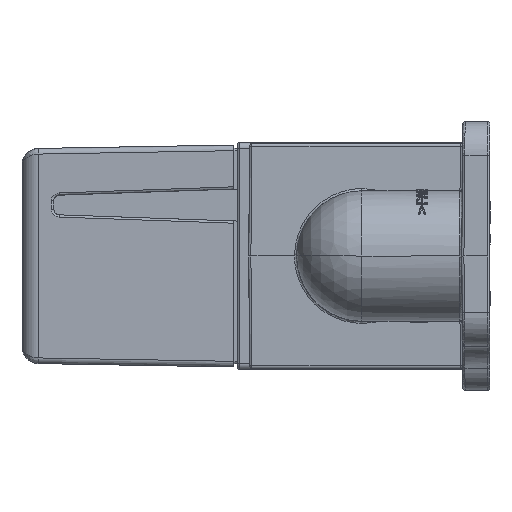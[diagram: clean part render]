
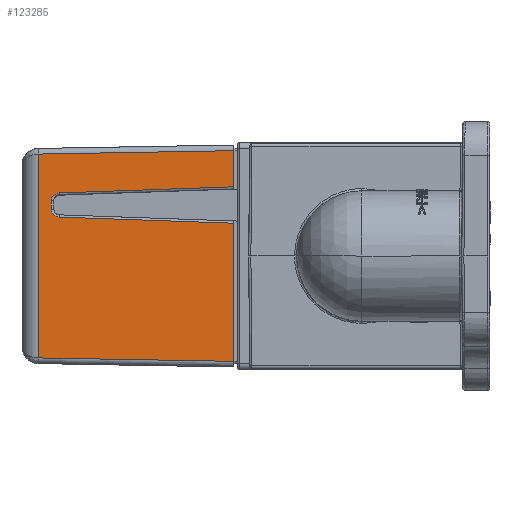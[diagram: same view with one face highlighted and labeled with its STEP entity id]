
A CAD part, left-side view. The second image highlights one B-rep face of the part: STEP entity #123285.
In plain terms, the highlighted planar face has unit normal (-1, 0.018, 0).
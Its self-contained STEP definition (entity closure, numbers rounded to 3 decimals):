
#2900 = VECTOR ( 'NONE', #12757, 1000. ) ;
#5204 = EDGE_CURVE ( 'NONE', #57630, #69656, #29531, .T. ) ;
#5913 = EDGE_CURVE ( 'NONE', #23092, #9469, #22749, .T. ) ;
#9469 = VERTEX_POINT ( 'NONE', #10499 ) ;
#9934 = EDGE_CURVE ( 'NONE', #69656, #26463, #38743, .T. ) ;
#10499 = CARTESIAN_POINT ( 'NONE',  ( -28.945, 11.3, 6.105 ) ) ;
#10926 = ORIENTED_EDGE ( 'NONE', *, *, #73440, .T. ) ;
#11131 = DIRECTION ( 'NONE',  ( -0.017, -1., -0.017 ) ) ;
#12757 = DIRECTION ( 'NONE',  ( 0.017, 1., -0.017 ) ) ;
#13416 = DIRECTION ( 'NONE',  ( -0.017, -1., 0. ) ) ;
#13920 = CARTESIAN_POINT ( 'NONE',  ( -28.644, 28.526, 8.994 ) ) ;
#14387 = DIRECTION ( 'NONE',  ( 0., 0., -1. ) ) ;
#15312 =( BOUNDED_CURVE ( )  B_SPLINE_CURVE ( 3, ( #115528, #78158, #40130, #57915 ),
 .UNSPECIFIED., .F., .F. ) 
 B_SPLINE_CURVE_WITH_KNOTS ( ( 4, 4 ),
 ( 0., 1.536 ),
 .UNSPECIFIED. ) 
 CURVE ( )  GEOMETRIC_REPRESENTATION_ITEM ( )  RATIONAL_B_SPLINE_CURVE ( ( 1., 0.813, 0.813, 1. ) ) 
 REPRESENTATION_ITEM ( '' )  );
#15568 = CARTESIAN_POINT ( 'NONE',  ( -28.945, 11.3, 2.895 ) ) ;
#16851 = LINE ( 'NONE', #82223, #84382 ) ;
#16852 = DIRECTION ( 'NONE',  ( -0.017, -0.999, 0.035 ) ) ;
#18541 = ORIENTED_EDGE ( 'NONE', *, *, #20839, .F. ) ;
#18619 = EDGE_CURVE ( 'NONE', #26463, #97207, #15312, .T. ) ;
#19363 = VERTEX_POINT ( 'NONE', #30581 ) ;
#19917 = ORIENTED_EDGE ( 'NONE', *, *, #82877, .T. ) ;
#20839 = EDGE_CURVE ( 'NONE', #112100, #19363, #16851, .T. ) ;
#21813 = ORIENTED_EDGE ( 'NONE', *, *, #9934, .T. ) ;
#21859 = CARTESIAN_POINT ( 'NONE',  ( -28.669, 27.126, 3.447 ) ) ;
#22749 = LINE ( 'NONE', #24018, #124797 ) ;
#23092 = VERTEX_POINT ( 'NONE', #87893 ) ;
#24018 = CARTESIAN_POINT ( 'NONE',  ( -28.945, 11.3, -9.8 ) ) ;
#26463 = VERTEX_POINT ( 'NONE', #62722 ) ;
#29531 =( BOUNDED_CURVE ( )  B_SPLINE_CURVE ( 3, ( #70700, #21859, #50419, #41570 ),
 .UNSPECIFIED., .F., .F. ) 
 B_SPLINE_CURVE_WITH_KNOTS ( ( 4, 4 ),
 ( 4.747, 6.283 ),
 .UNSPECIFIED. ) 
 CURVE ( )  GEOMETRIC_REPRESENTATION_ITEM ( )  RATIONAL_B_SPLINE_CURVE ( ( 1., 0.813, 0.813, 1. ) ) 
 REPRESENTATION_ITEM ( '' )  );
#30581 = CARTESIAN_POINT ( 'NONE',  ( -28.945, 11.3, -9.295 ) ) ;
#33720 = CARTESIAN_POINT ( 'NONE',  ( -28.944, 11.333, 9.294 ) ) ;
#33750 = FACE_OUTER_BOUND ( 'NONE', #79960, .T. ) ;
#34979 = ORIENTED_EDGE ( 'NONE', *, *, #57140, .T. ) ;
#38743 = LINE ( 'NONE', #88102, #44688 ) ;
#40130 = CARTESIAN_POINT ( 'NONE',  ( -28.669, 27.126, 5.553 ) ) ;
#40614 = DIRECTION ( 'NONE',  ( 0., 0., 1. ) ) ;
#40974 = LINE ( 'NONE', #49839, #55221 ) ;
#41570 = CARTESIAN_POINT ( 'NONE',  ( -28.664, 27.403, 4.133 ) ) ;
#44219 = CARTESIAN_POINT ( 'NONE',  ( -28.94, 11.555, 6.097 ) ) ;
#44688 = VECTOR ( 'NONE', #40614, 1000. ) ;
#49749 = VECTOR ( 'NONE', #125133, 1000. ) ;
#49839 = CARTESIAN_POINT ( 'NONE',  ( -28.95, 10.991, -9.3 ) ) ;
#50419 = CARTESIAN_POINT ( 'NONE',  ( -28.664, 27.403, 3.734 ) ) ;
#53732 = ORIENTED_EDGE ( 'NONE', *, *, #5204, .T. ) ;
#54596 = CARTESIAN_POINT ( 'NONE',  ( -28.95, 11., -9.8 ) ) ;
#55221 = VECTOR ( 'NONE', #11131, 1000. ) ;
#56353 = ORIENTED_EDGE ( 'NONE', *, *, #18619, .T. ) ;
#57140 = EDGE_CURVE ( 'NONE', #23092, #125158, #118616, .T. ) ;
#57630 = VERTEX_POINT ( 'NONE', #114145 ) ;
#57915 = CARTESIAN_POINT ( 'NONE',  ( -28.675, 26.728, 5.567 ) ) ;
#59277 = CARTESIAN_POINT ( 'NONE',  ( -28.958, 10.558, 2.869 ) ) ;
#59953 = DIRECTION ( 'NONE',  ( 0., 0., -1. ) ) ;
#62722 = CARTESIAN_POINT ( 'NONE',  ( -28.664, 27.403, 4.867 ) ) ;
#67871 = ORIENTED_EDGE ( 'NONE', *, *, #112185, .T. ) ;
#69398 = LINE ( 'NONE', #59277, #49749 ) ;
#69656 = VERTEX_POINT ( 'NONE', #113822 ) ;
#69731 = EDGE_CURVE ( 'NONE', #97207, #9469, #120858, .T. ) ;
#70700 = CARTESIAN_POINT ( 'NONE',  ( -28.675, 26.728, 3.433 ) ) ;
#73440 = EDGE_CURVE ( 'NONE', #125158, #115931, #80209, .T. ) ;
#77711 = VECTOR ( 'NONE', #59953, 1000. ) ;
#78158 = CARTESIAN_POINT ( 'NONE',  ( -28.664, 27.403, 5.266 ) ) ;
#79960 = EDGE_LOOP ( 'NONE', ( #18541, #67871, #53732, #21813, #56353, #115530, #97445, #34979, #10926, #19917 ) ) ;
#80209 = LINE ( 'NONE', #99800, #77711 ) ;
#82223 = CARTESIAN_POINT ( 'NONE',  ( -28.945, 11.3, -9.8 ) ) ;
#82877 = EDGE_CURVE ( 'NONE', #115931, #19363, #40974, .T. ) ;
#83083 = DIRECTION ( 'NONE',  ( -1., 0.017, 0. ) ) ;
#84382 = VECTOR ( 'NONE', #14387, 1000. ) ;
#87893 = CARTESIAN_POINT ( 'NONE',  ( -28.945, 11.3, 9.295 ) ) ;
#88102 = CARTESIAN_POINT ( 'NONE',  ( -28.664, 27.403, -9.8 ) ) ;
#90307 = CARTESIAN_POINT ( 'NONE',  ( -28.675, 26.728, 5.567 ) ) ;
#97207 = VERTEX_POINT ( 'NONE', #90307 ) ;
#97445 = ORIENTED_EDGE ( 'NONE', *, *, #5913, .F. ) ;
#99800 = CARTESIAN_POINT ( 'NONE',  ( -28.644, 28.526, -8.968 ) ) ;
#100364 = VECTOR ( 'NONE', #16852, 1000. ) ;
#101341 = DIRECTION ( 'NONE',  ( 0., 0., -1. ) ) ;
#105721 = CARTESIAN_POINT ( 'NONE',  ( -28.644, 28.526, -8.994 ) ) ;
#106314 = AXIS2_PLACEMENT_3D ( 'NONE', #54596, #83083, #13416 ) ;
#112100 = VERTEX_POINT ( 'NONE', #15568 ) ;
#112185 = EDGE_CURVE ( 'NONE', #112100, #57630, #69398, .T. ) ;
#112852 = PLANE ( 'NONE',  #106314 ) ;
#113822 = CARTESIAN_POINT ( 'NONE',  ( -28.664, 27.403, 4.133 ) ) ;
#114145 = CARTESIAN_POINT ( 'NONE',  ( -28.675, 26.728, 3.433 ) ) ;
#115528 = CARTESIAN_POINT ( 'NONE',  ( -28.664, 27.403, 4.867 ) ) ;
#115530 = ORIENTED_EDGE ( 'NONE', *, *, #69731, .T. ) ;
#115931 = VERTEX_POINT ( 'NONE', #105721 ) ;
#118616 = LINE ( 'NONE', #33720, #2900 ) ;
#120858 = LINE ( 'NONE', #44219, #100364 ) ;
#123285 = ADVANCED_FACE ( 'NONE', ( #33750 ), #112852, .T. ) ;
#124797 = VECTOR ( 'NONE', #101341, 1000. ) ;
#125133 = DIRECTION ( 'NONE',  ( 0.017, 0.999, 0.035 ) ) ;
#125158 = VERTEX_POINT ( 'NONE', #13920 ) ;
